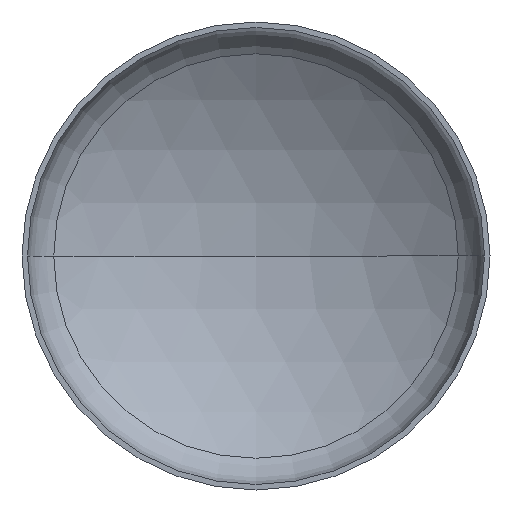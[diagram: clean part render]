
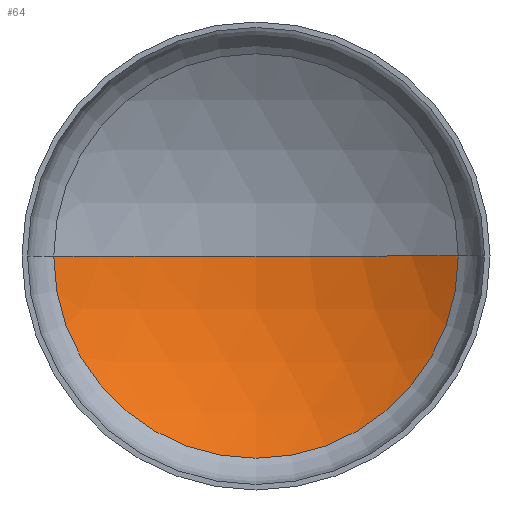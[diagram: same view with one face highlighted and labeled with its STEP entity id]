
A CAD part, front view. The second image highlights one B-rep face of the part: STEP entity #64.
In plain terms, the highlighted spherical face has radius 198.8 mm.
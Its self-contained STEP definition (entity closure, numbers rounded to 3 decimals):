
#9 = FACE_OUTER_BOUND ( 'NONE', #258, .T. ) ;
#25 = VERTEX_POINT ( 'NONE', #65 ) ;
#26 = AXIS2_PLACEMENT_3D ( 'NONE', #403, #160, #250 ) ;
#27 = DIRECTION ( 'NONE',  ( 0., 0., 1. ) ) ;
#55 = VERTEX_POINT ( 'NONE', #168 ) ;
#64 = ADVANCED_FACE ( 'NONE', ( #9 ), #171, .F. ) ;
#65 = CARTESIAN_POINT ( 'NONE',  ( -110.63, 30.374, 0. ) ) ;
#81 = DIRECTION ( 'NONE',  ( 0., 0., -1. ) ) ;
#107 = CARTESIAN_POINT ( 'NONE',  ( 0., -134.8, 0. ) ) ;
#116 = CARTESIAN_POINT ( 'NONE',  ( 110.63, 30.374, 0. ) ) ;
#137 = CIRCLE ( 'NONE', #346, 198.8 ) ;
#146 = DIRECTION ( 'NONE',  ( 0., 0., 1. ) ) ;
#147 = EDGE_CURVE ( 'NONE', #25, #55, #137, .T. ) ;
#158 = CIRCLE ( 'NONE', #26, 110.63 ) ;
#160 = DIRECTION ( 'NONE',  ( 0., 1., 0. ) ) ;
#166 = ORIENTED_EDGE ( 'NONE', *, *, #147, .F. ) ;
#168 = CARTESIAN_POINT ( 'NONE',  ( 0., 64., 0. ) ) ;
#171 = SPHERICAL_SURFACE ( 'NONE', #338, 198.8 ) ;
#220 = VERTEX_POINT ( 'NONE', #116 ) ;
#223 = ORIENTED_EDGE ( 'NONE', *, *, #329, .T. ) ;
#244 = DIRECTION ( 'NONE',  ( -1., 0., 0. ) ) ;
#250 = DIRECTION ( 'NONE',  ( -1., 0., 0. ) ) ;
#252 = CARTESIAN_POINT ( 'NONE',  ( 0., -134.8, 0. ) ) ;
#258 = EDGE_LOOP ( 'NONE', ( #371, #223, #166 ) ) ;
#261 = DIRECTION ( 'NONE',  ( -1., 0., 0. ) ) ;
#297 = AXIS2_PLACEMENT_3D ( 'NONE', #252, #27, #344 ) ;
#300 = EDGE_CURVE ( 'NONE', #220, #25, #158, .T. ) ;
#329 = EDGE_CURVE ( 'NONE', #220, #55, #400, .T. ) ;
#338 = AXIS2_PLACEMENT_3D ( 'NONE', #107, #146, #261 ) ;
#344 = DIRECTION ( 'NONE',  ( 1., 0., 0. ) ) ;
#346 = AXIS2_PLACEMENT_3D ( 'NONE', #394, #81, #244 ) ;
#371 = ORIENTED_EDGE ( 'NONE', *, *, #300, .F. ) ;
#394 = CARTESIAN_POINT ( 'NONE',  ( 0., -134.8, 0. ) ) ;
#400 = CIRCLE ( 'NONE', #297, 198.8 ) ;
#403 = CARTESIAN_POINT ( 'NONE',  ( 0., 30.374, 0. ) ) ;
